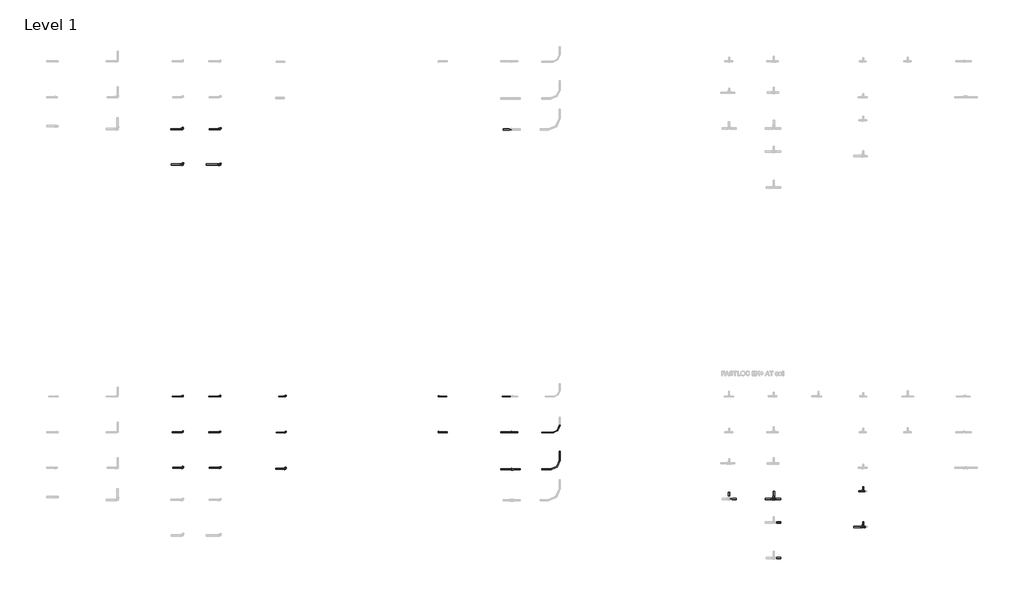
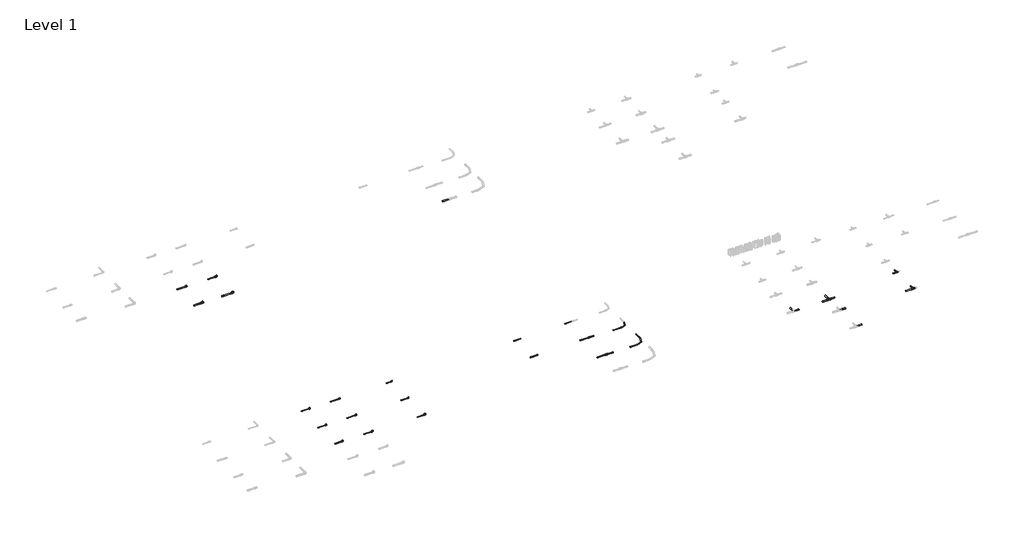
# One storey, part 5 of 16: 35 pipe segments, 24 pipe fittings.
"""IFC4 building model written with IfcOpenShell, lengths in millimetres."""

from ifc_helpers import new_model, si_unit, point, frame, frame_2d, origin, place, context, project, spatial, circle_curve, trimmed, segment, composite_curve, outline, extrude, transform, mapped, element, save
from components import pipe_fitting_554da5ac, pipe_fitting_11a16acd, pipe_fitting_c58dc389, pipe_fitting_749d9a03, pipe_fitting_037c3912, pipe_fitting_39b045f9, pipe_fitting_bf5c4f06, pipe_fitting_d71fb650, pipe_fitting_546e3b0f, pipe_fitting_1a29b1f6, pipe_fitting_21c97d0d, pipe_fitting_bc9683d6, pipe_fitting_d5e3d02e, pipe_fitting_bff7a8e0, pipe_fitting_48a19379, pipe_fitting_503ca6ef, pipe_fitting_0c2dddc6, pipe_fitting_6c2c1df7, pipe_fitting_8eda894a, pipe_fitting_ad4eddfe, pipe_fitting_73c1a440

model = new_model("IFC4")

# Units and contexts
model_context = context("Model", 3, world=origin())
ifc_project = project(units=[si_unit("LENGTHUNIT", "METRE", prefix="MILLI")], contexts=[model_context])

# Site, building, storey
site = spatial("IfcSite", under=ifc_project)
building = spatial("IfcBuilding", under=site)
storey = spatial("IfcBuildingStorey", under=building, Name="Level 1", Elevation=0.0)

# Pipe fittings
placement = place(None, origin())
pipe_fitting_shape = pipe_fitting_554da5ac(model_context)
element("IfcPipeFitting", 1, ObjectType="FASTLOC_Elbow with male thread EX+ : FSL A internal AT", at=placement, inside=storey, context=model_context, shape_type="MappedRepresentation", body=[
    mapped(pipe_fitting_shape, transform((16735.3824015, -7087.6479967, 0.0), x_axis=(1.0, 0.0, 0.0), y_axis=(0.0, 1.0, 0.0), z_axis=(0.0, 0.0, 1.0))),
])
pipe_fitting_2_shape = pipe_fitting_11a16acd(model_context)
element("IfcPipeFitting", 2, ObjectType="FASTLOC_Elbow with female thread EX+ : FSL A internal AT", at=placement, inside=storey, context=model_context, shape_type="MappedRepresentation", body=[
    mapped(pipe_fitting_2_shape, transform((17573.8113057, -6287.6479967, 0.0), x_axis=(1.0, 0.0, 0.0), y_axis=(0.0, 1.0, 0.0), z_axis=(0.0, 0.0, 1.0))),
])
element("IfcPipeFitting", 3, ObjectType="FASTLOC_Elbow with female thread EX+ : FSL A internal AT", at=placement, inside=storey, context=model_context, shape_type="MappedRepresentation", body=[
    mapped(pipe_fitting_2_shape, transform((19035.3824015, -6287.6479967, 0.0), x_axis=(1.0, 0.0, 0.0), y_axis=(0.0, 1.0, 0.0), z_axis=(0.0, 0.0, 1.0))),
])
element("IfcPipeFitting", 4, ObjectType="FASTLOC_Elbow with female thread EX+ : FSL A internal AT", at=placement, inside=storey, context=model_context, shape_type="MappedRepresentation", body=[
    mapped(pipe_fitting_2_shape, transform((19035.3824015, -7095.6479967, 0.0), x_axis=(1.0, 0.0, 0.0), y_axis=(0.0, 1.0, 0.0), z_axis=(0.0, 0.0, 1.0))),
])
pipe_fitting_3_shape = pipe_fitting_c58dc389(model_context)
element("IfcPipeFitting", 5, ObjectType="FASTLOC_Blanking plug EX+ : FSL Bp EX+ AT", at=placement, inside=storey, context=model_context, shape_type="MappedRepresentation", body=[
    mapped(pipe_fitting_3_shape, transform((22451.3241081, -6287.6479967, 0.0), x_axis=(1.0, 0.0, 0.0), y_axis=(0.0, 1.0, 0.0), z_axis=(0.0, 0.0, 1.0))),
])
pipe_fitting_4_shape = pipe_fitting_749d9a03(model_context)
element("IfcPipeFitting", 6, ObjectType="RAUTITAN_Sleeve PX : RTI S PX", at=placement, inside=storey, context=model_context, shape_type="MappedRepresentation", body=[
    mapped(pipe_fitting_4_shape, transform((24105.6241081, -7087.6479967, 13.7), x_axis=(1.0, 0.0, 0.0), y_axis=(0.0, 1.0, 0.0), z_axis=(0.0, 0.0, 1.0))),
])
pipe_fitting_5_shape = pipe_fitting_037c3912(model_context)
element("IfcPipeFitting", 7, ObjectType="RAUTITAN_Sleeve PX : RTI S PX", at=placement, inside=storey, context=model_context, shape_type="MappedRepresentation", body=[
    mapped(pipe_fitting_5_shape, transform((24107.9241081, -7918.854246, 13.7), x_axis=(1.0, 0.0, 0.0), y_axis=(0.0, 1.0, 0.0), z_axis=(0.0, 0.0, 1.0))),
])
pipe_fitting_6_shape = pipe_fitting_39b045f9(model_context)
element("IfcPipeFitting", 8, ObjectType="FASTLOC_ML_bend : FSL ML AT", at=placement, inside=storey, context=model_context, shape_type="MappedRepresentation", body=[
    mapped(pipe_fitting_6_shape, transform((25170.2040344, -7095.6479967, 0.0), x_axis=(1.0, 0.0, 0.0), y_axis=(0.0, 1.0, 0.0), z_axis=(0.0, 0.0, 1.0))),
])
pipe_fitting_7_shape = pipe_fitting_bf5c4f06(model_context)
element("IfcPipeFitting", 9, ObjectType="FASTLOC_ML_bend : FSL ML AT", at=placement, inside=storey, context=model_context, shape_type="MappedRepresentation", body=[
    mapped(pipe_fitting_7_shape, transform((25170.2040344, -7918.854246, 0.0), x_axis=(1.0, 0.0, 0.0), y_axis=(0.0, 1.0, 0.0), z_axis=(0.0, 0.0, 1.0))),
])
pipe_fitting_8_shape = pipe_fitting_d71fb650(model_context)
element("IfcPipeFitting", 10, ObjectType="FASTLOC_Elbow with male thread EX+ : FSL A internal DE", at=placement, inside=storey, context=model_context, shape_type="MappedRepresentation", body=[
    mapped(pipe_fitting_8_shape, transform((16735.3824015, -304.9640428, 0.0), x_axis=(1.0, 0.0, 0.0), y_axis=(0.0, 1.0, 0.0), z_axis=(0.0, 0.0, 1.0))),
])
pipe_fitting_9_shape = pipe_fitting_546e3b0f(model_context)
element("IfcPipeFitting", 11, ObjectType="FASTLOC_Elbow with male thread EX+ : FSL A internal DE", at=placement, inside=storey, context=model_context, shape_type="MappedRepresentation", body=[
    mapped(pipe_fitting_9_shape, transform((16735.3824015, -1099.407392, 0.0), x_axis=(1.0, 0.0, 0.0), y_axis=(0.0, 1.0, 0.0), z_axis=(0.0, 0.0, 1.0))),
])
pipe_fitting_10_shape = pipe_fitting_1a29b1f6(model_context)
element("IfcPipeFitting", 12, ObjectType="FASTLOC_Elbow with male thread EX+ : FSL A internal AT", at=placement, inside=storey, context=model_context, shape_type="MappedRepresentation", body=[
    mapped(pipe_fitting_10_shape, transform((16735.3824015, -6287.6479967, 0.0), x_axis=(1.0, 0.0, 0.0), y_axis=(0.0, 1.0, 0.0), z_axis=(0.0, 0.0, 1.0))),
])
pipe_fitting_11_shape = pipe_fitting_21c97d0d(model_context)
element("IfcPipeFitting", 13, ObjectType="FASTLOC_Elbow with male thread EX+ : FSL A internal AT", at=placement, inside=storey, context=model_context, shape_type="MappedRepresentation", body=[
    mapped(pipe_fitting_11_shape, transform((16735.3824015, -7887.6479967, 0.0), x_axis=(1.0, 0.0, 0.0), y_axis=(0.0, 1.0, 0.0), z_axis=(0.0, 0.0, 1.0))),
])
pipe_fitting_12_shape = pipe_fitting_bc9683d6(model_context)
element("IfcPipeFitting", 14, ObjectType="FASTLOC_T-piece_EX+ : FSL T-Piece EX+ AT", at=placement, inside=storey, context=model_context, shape_type="MappedRepresentation", body=[
    mapped(pipe_fitting_12_shape, transform((29962.9146925, -8587.6479967, 0.0), x_axis=(1.0, 0.0, 0.0), y_axis=(0.0, 1.0, 0.0), z_axis=(0.0, 0.0, 1.0))),
])
pipe_fitting_13_shape = pipe_fitting_d5e3d02e(model_context)
element("IfcPipeFitting", 15, ObjectType="FASTLOC_T-piece_EX+ : FSL T-Piece EX+ AT", at=placement, inside=storey, context=model_context, shape_type="MappedRepresentation", body=[
    mapped(pipe_fitting_13_shape, transform((31962.9146925, -9207.6479967, 0.0), x_axis=(1.0, 0.0, 0.0), y_axis=(0.0, 1.0, 0.0), z_axis=(0.0, 0.0, 1.0))),
])
pipe_fitting_14_shape = pipe_fitting_bff7a8e0(model_context)
element("IfcPipeFitting", 16, ObjectType="FASTLOC_T-piece_EX+ : FSL T-Piece EX+ AT", at=placement, inside=storey, context=model_context, shape_type="MappedRepresentation", body=[
    mapped(pipe_fitting_14_shape, transform((31962.9146925, -8407.6479967, 0.0), x_axis=(1.0, 0.0, 0.0), y_axis=(0.0, 1.0, 0.0), z_axis=(0.0, 0.0, 1.0))),
])
pipe_fitting_15_shape = pipe_fitting_48a19379(model_context)
element("IfcPipeFitting", 17, ObjectType="FASTLOC_Adapter coupling EX+ : FSL TC EX+ AT", at=placement, inside=storey, context=model_context, shape_type="MappedRepresentation", body=[
    mapped(pipe_fitting_15_shape, transform((24091.3241081, -7087.6479967, 13.7), x_axis=(1.0, 0.0, 0.0), y_axis=(0.0, 1.0, 0.0), z_axis=(0.0, 0.0, 1.0))),
])
pipe_fitting_16_shape = pipe_fitting_503ca6ef(model_context)
element("IfcPipeFitting", 18, ObjectType="FASTLOC_Adapter coupling EX+ : FSL TC EX+ AT", at=placement, inside=storey, context=model_context, shape_type="MappedRepresentation", body=[
    mapped(pipe_fitting_16_shape, transform((24091.3241081, -7918.854246, 13.7), x_axis=(1.0, 0.0, 0.0), y_axis=(0.0, 1.0, 0.0), z_axis=(0.0, 0.0, 1.0))),
])
pipe_fitting_17_shape = pipe_fitting_0c2dddc6(model_context)
element("IfcPipeFitting", 19, ObjectType="FASTLOC_Blanking plug EX+ : FSL Bp EX+ AT", at=placement, inside=storey, context=model_context, shape_type="MappedRepresentation", body=[
    mapped(pipe_fitting_17_shape, transform((22451.3241081, -7087.6479967, 0.0), x_axis=(1.0, 0.0, 0.0), y_axis=(0.0, 1.0, 0.0), z_axis=(0.0, 0.0, 1.0))),
])
pipe_fitting_18_shape = pipe_fitting_6c2c1df7(model_context)
element("IfcPipeFitting", 20, ObjectType="FASTLOC_Elbow with female thread EX+ : FSL A internal DE", at=placement, inside=storey, context=model_context, shape_type="MappedRepresentation", body=[
    mapped(pipe_fitting_18_shape, transform((17573.8113057, -304.9640428, 0.0), x_axis=(1.0, 0.0, 0.0), y_axis=(0.0, 1.0, 0.0), z_axis=(0.0, 0.0, 1.0))),
])
pipe_fitting_19_shape = pipe_fitting_8eda894a(model_context)
element("IfcPipeFitting", 21, ObjectType="FASTLOC_Elbow with female thread EX+ : FSL A internal DE", at=placement, inside=storey, context=model_context, shape_type="MappedRepresentation", body=[
    mapped(pipe_fitting_19_shape, transform((17573.8113057, -1099.407392, 0.0), x_axis=(1.0, 0.0, 0.0), y_axis=(0.0, 1.0, 0.0), z_axis=(0.0, 0.0, 1.0))),
])
pipe_fitting_20_shape = pipe_fitting_ad4eddfe(model_context)
element("IfcPipeFitting", 22, ObjectType="FASTLOC_Elbow with female thread EX+ : FSL A internal AT", at=placement, inside=storey, context=model_context, shape_type="MappedRepresentation", body=[
    mapped(pipe_fitting_20_shape, transform((17573.8113057, -7087.6479967, 0.0), x_axis=(1.0, 0.0, 0.0), y_axis=(0.0, 1.0, 0.0), z_axis=(0.0, 0.0, 1.0))),
])
pipe_fitting_21_shape = pipe_fitting_73c1a440(model_context)
element("IfcPipeFitting", 23, ObjectType="FASTLOC_Elbow with female thread EX+ : FSL A internal AT", at=placement, inside=storey, context=model_context, shape_type="MappedRepresentation", body=[
    mapped(pipe_fitting_21_shape, transform((17573.8113057, -7887.6479967, 0.0), x_axis=(1.0, 0.0, 0.0), y_axis=(0.0, 1.0, 0.0), z_axis=(0.0, 0.0, 1.0))),
])
element("IfcPipeFitting", 24, ObjectType="FASTLOC_Elbow with female thread EX+ : FSL A internal AT", at=placement, inside=storey, context=model_context, shape_type="MappedRepresentation", body=[
    mapped(pipe_fitting_18_shape, transform((19035.3824015, -7906.354246, 0.0), x_axis=(1.0, 0.0, 0.0), y_axis=(0.0, 1.0, 0.0), z_axis=(0.0, 0.0, 1.0))),
])

# Pipe segments
element("IfcPipeSegment", 25, ObjectType="FASTLOC EX+ ML DE bar", at=placement, inside=storey, context=model_context, shape_type="SweptSolid", body=[
    extrude(outline(composite_curve([segment(trimmed(circle_curve(frame_2d((-311.8142398, 13.7)), 16.0), [point((-295.8142398, 13.7))], [point((-311.8142398, -2.3))], False, "CARTESIAN"), True, "CONTINUOUS"), segment(trimmed(circle_curve(frame_2d((-311.8142398, 13.7)), 16.0), [point((-311.8142398, -2.3))], [point((-327.8142398, 13.7))], False, "CARTESIAN"), True, "CONTINUOUS"), segment(trimmed(circle_curve(frame_2d((-311.8142398, 13.7)), 16.0), [point((-327.8142398, 13.7))], [point((-311.8142398, 29.7))], False, "CARTESIAN"), True, "CONTINUOUS"), segment(trimmed(circle_curve(frame_2d((-311.8142398, 13.7)), 16.0), [point((-311.8142398, 29.7))], [point((-295.8142398, 13.7))], False, "CARTESIAN"), True, "CONTINUOUS")], self_intersect=False)), frame((23905.8241081, 0.0, 0.0), z_axis=(1.0, 0.0, 0.0), x_axis=(0.0, 1.0, 0.0)), (0.0, 0.0, 1.0), 180.0),
])
element("IfcPipeSegment", 26, ObjectType="FASTLOC EX+ ML DE bar", at=placement, inside=storey, context=model_context, shape_type="SweptSolid", body=[
    extrude(outline(composite_curve([segment(trimmed(circle_curve(frame_2d((-304.9640428, 0.0)), 12.5), [point((-292.4640428, 0.0))], [point((-304.9640428, -12.5))], False, "CARTESIAN"), True, "CONTINUOUS"), segment(trimmed(circle_curve(frame_2d((-304.9640428, 0.0)), 12.5), [point((-304.9640428, -12.5))], [point((-317.4640428, 0.0))], False, "CARTESIAN"), True, "CONTINUOUS"), segment(trimmed(circle_curve(frame_2d((-304.9640428, 0.0)), 12.5), [point((-317.4640428, 0.0))], [point((-304.9640428, 12.5))], False, "CARTESIAN"), True, "CONTINUOUS"), segment(trimmed(circle_curve(frame_2d((-304.9640428, 0.0)), 12.5), [point((-304.9640428, 12.5))], [point((-292.4640428, 0.0))], False, "CARTESIAN"), True, "CONTINUOUS")], self_intersect=False)), frame((17326.8113057, 0.0, 0.0), z_axis=(1.0, 0.0, 0.0), x_axis=(0.0, 1.0, 0.0)), (0.0, 0.0, 1.0), 220.0),
])
element("IfcPipeSegment", 27, ObjectType="FASTLOC EX+ ML DE bar", at=placement, inside=storey, context=model_context, shape_type="SweptSolid", body=[
    extrude(outline(composite_curve([segment(trimmed(circle_curve(frame_2d((-304.9640428, 0.0)), 12.5), [point((-292.4640428, 0.0))], [point((-304.9640428, -12.5))], False, "CARTESIAN"), True, "CONTINUOUS"), segment(trimmed(circle_curve(frame_2d((-304.9640428, 0.0)), 12.5), [point((-304.9640428, -12.5))], [point((-317.4640428, 0.0))], False, "CARTESIAN"), True, "CONTINUOUS"), segment(trimmed(circle_curve(frame_2d((-304.9640428, 0.0)), 12.5), [point((-317.4640428, 0.0))], [point((-304.9640428, 12.5))], False, "CARTESIAN"), True, "CONTINUOUS"), segment(trimmed(circle_curve(frame_2d((-304.9640428, 0.0)), 12.5), [point((-304.9640428, 12.5))], [point((-292.4640428, 0.0))], False, "CARTESIAN"), True, "CONTINUOUS")], self_intersect=False)), frame((16461.1824015, 0.0, 0.0), z_axis=(1.0, 0.0, 0.0), x_axis=(0.0, 1.0, 0.0)), (0.0, 0.0, 1.0), 250.0),
])
element("IfcPipeSegment", 28, ObjectType="FASTLOC EX+ ML DE bar", at=placement, inside=storey, context=model_context, shape_type="SweptSolid", body=[
    extrude(outline(composite_curve([segment(trimmed(circle_curve(frame_2d((-1099.407392, 0.0)), 16.0), [point((-1083.407392, 0.0))], [point((-1099.407392, -16.0))], False, "CARTESIAN"), True, "CONTINUOUS"), segment(trimmed(circle_curve(frame_2d((-1099.407392, 0.0)), 16.0), [point((-1099.407392, -16.0))], [point((-1115.407392, 0.0))], False, "CARTESIAN"), True, "CONTINUOUS"), segment(trimmed(circle_curve(frame_2d((-1099.407392, 0.0)), 16.0), [point((-1115.407392, 0.0))], [point((-1099.407392, 16.0))], False, "CARTESIAN"), True, "CONTINUOUS"), segment(trimmed(circle_curve(frame_2d((-1099.407392, 0.0)), 16.0), [point((-1099.407392, 16.0))], [point((-1083.407392, 0.0))], False, "CARTESIAN"), True, "CONTINUOUS")], self_intersect=False)), frame((16475.6824015, 0.0, 0.0), z_axis=(1.0, 0.0, 0.0), x_axis=(0.0, 1.0, 0.0)), (0.0, 0.0, 1.0), 230.0),
])
element("IfcPipeSegment", 29, ObjectType="FASTLOC EX+ ML DE bar", at=placement, inside=storey, context=model_context, shape_type="SweptSolid", body=[
    extrude(outline(composite_curve([segment(trimmed(circle_curve(frame_2d((-1099.407392, 0.0)), 16.0), [point((-1083.407392, 0.0))], [point((-1099.407392, -16.0))], False, "CARTESIAN"), True, "CONTINUOUS"), segment(trimmed(circle_curve(frame_2d((-1099.407392, 0.0)), 16.0), [point((-1099.407392, -16.0))], [point((-1115.407392, 0.0))], False, "CARTESIAN"), True, "CONTINUOUS"), segment(trimmed(circle_curve(frame_2d((-1099.407392, 0.0)), 16.0), [point((-1115.407392, 0.0))], [point((-1099.407392, 16.0))], False, "CARTESIAN"), True, "CONTINUOUS"), segment(trimmed(circle_curve(frame_2d((-1099.407392, 0.0)), 16.0), [point((-1099.407392, 16.0))], [point((-1083.407392, 0.0))], False, "CARTESIAN"), True, "CONTINUOUS")], self_intersect=False)), frame((17261.8113057, 0.0, 0.0), z_axis=(1.0, 0.0, 0.0), x_axis=(0.0, 1.0, 0.0)), (0.0, 0.0, 1.0), 280.0),
])
element("IfcPipeSegment", 30, ObjectType="FASTLOC EX+ ML AT bar", at=placement, inside=storey, context=model_context, shape_type="SweptSolid", body=[
    extrude(outline(composite_curve([segment(trimmed(circle_curve(frame_2d((-7095.6479967, 0.0)), 10.0), [point((-7085.6479967, 0.0))], [point((-7095.6479967, -10.0))], False, "CARTESIAN"), True, "CONTINUOUS"), segment(trimmed(circle_curve(frame_2d((-7095.6479967, 0.0)), 10.0), [point((-7095.6479967, -10.0))], [point((-7105.6479967, 0.0))], False, "CARTESIAN"), True, "CONTINUOUS"), segment(trimmed(circle_curve(frame_2d((-7095.6479967, 0.0)), 10.0), [point((-7105.6479967, 0.0))], [point((-7095.6479967, 10.0))], False, "CARTESIAN"), True, "CONTINUOUS"), segment(trimmed(circle_curve(frame_2d((-7095.6479967, 0.0)), 10.0), [point((-7095.6479967, 10.0))], [point((-7085.6479967, 0.0))], False, "CARTESIAN"), True, "CONTINUOUS")], self_intersect=False)), frame((24770.2040344, 0.0, 0.0), z_axis=(1.0, 0.0, 0.0), x_axis=(0.0, 1.0, 0.0)), (0.0, 0.0, 1.0), 240.0),
])
element("IfcPipeSegment", 31, ObjectType="FASTLOC EX+ ML AT bar", at=placement, inside=storey, context=model_context, shape_type="SweptSolid", body=[
    extrude(outline(composite_curve([segment(trimmed(circle_curve(frame_2d((0.0, 25170.2040344)), 12.5), [point((0.0, 25182.7040344))], [point((12.5, 25170.2040344))], False, "CARTESIAN"), True, "CONTINUOUS"), segment(trimmed(circle_curve(frame_2d((0.0, 25170.2040344)), 12.5), [point((12.5, 25170.2040344))], [point((0.0, 25157.7040344))], False, "CARTESIAN"), True, "CONTINUOUS"), segment(trimmed(circle_curve(frame_2d((0.0, 25170.2040344)), 12.5), [point((0.0, 25157.7040344))], [point((-12.5, 25170.2040344))], False, "CARTESIAN"), True, "CONTINUOUS"), segment(trimmed(circle_curve(frame_2d((0.0, 25170.2040344)), 12.5), [point((-12.5, 25170.2040344))], [point((0.0, 25182.7040344))], False, "CARTESIAN"), True, "CONTINUOUS")], self_intersect=False)), frame((0.0, -7718.854246, 0.0), z_axis=(0.0, 1.0, 0.0), x_axis=(0.0, 0.0, 1.0)), (0.0, 0.0, 1.0), 200.0),
])
element("IfcPipeSegment", 32, ObjectType="FASTLOC EX+ ML AT bar", at=placement, inside=storey, context=model_context, shape_type="SweptSolid", body=[
    extrude(outline(composite_curve([segment(trimmed(circle_curve(frame_2d((-7918.854246, 0.0)), 12.5), [point((-7906.354246, 0.0))], [point((-7918.854246, -12.5))], False, "CARTESIAN"), True, "CONTINUOUS"), segment(trimmed(circle_curve(frame_2d((-7918.854246, 0.0)), 12.5), [point((-7918.854246, -12.5))], [point((-7931.354246, 0.0))], False, "CARTESIAN"), True, "CONTINUOUS"), segment(trimmed(circle_curve(frame_2d((-7918.854246, 0.0)), 12.5), [point((-7931.354246, 0.0))], [point((-7918.854246, 12.5))], False, "CARTESIAN"), True, "CONTINUOUS"), segment(trimmed(circle_curve(frame_2d((-7918.854246, 0.0)), 12.5), [point((-7918.854246, 12.5))], [point((-7906.354246, 0.0))], False, "CARTESIAN"), True, "CONTINUOUS")], self_intersect=False)), frame((24770.2040344, 0.0, 0.0), z_axis=(1.0, 0.0, 0.0), x_axis=(0.0, 1.0, 0.0)), (0.0, 0.0, 1.0), 200.0),
])
element("IfcPipeSegment", 33, ObjectType="FASTLOC EX+ ML AT bar", at=placement, inside=storey, context=model_context, shape_type="SweptSolid", body=[
    extrude(outline(composite_curve([segment(trimmed(circle_curve(frame_2d((-7918.854246, 13.7)), 12.5), [point((-7906.354246, 13.7))], [point((-7918.854246, 1.2))], False, "CARTESIAN"), True, "CONTINUOUS"), segment(trimmed(circle_curve(frame_2d((-7918.854246, 13.7)), 12.5), [point((-7918.854246, 1.2))], [point((-7931.354246, 13.7))], False, "CARTESIAN"), True, "CONTINUOUS"), segment(trimmed(circle_curve(frame_2d((-7918.854246, 13.7)), 12.5), [point((-7931.354246, 13.7))], [point((-7918.854246, 26.2))], False, "CARTESIAN"), True, "CONTINUOUS"), segment(trimmed(circle_curve(frame_2d((-7918.854246, 13.7)), 12.5), [point((-7918.854246, 26.2))], [point((-7906.354246, 13.7))], False, "CARTESIAN"), True, "CONTINUOUS")], self_intersect=False)), frame((23846.7241081, 0.0, 0.0), z_axis=(1.0, 0.0, 0.0), x_axis=(0.0, 1.0, 0.0)), (0.0, 0.0, 1.0), 240.0),
])
element("IfcPipeSegment", 34, ObjectType="FASTLOC EX+ ML AT bar", at=placement, inside=storey, context=model_context, shape_type="SweptSolid", body=[
    extrude(outline(composite_curve([segment(trimmed(circle_curve(frame_2d((-7918.854246, 13.7)), 12.5), [point((-7931.354246, 13.7))], [point((-7918.854246, 26.2))], False, "CARTESIAN"), True, "CONTINUOUS"), segment(trimmed(circle_curve(frame_2d((-7918.854246, 13.7)), 12.5), [point((-7918.854246, 26.2))], [point((-7906.354246, 13.7))], False, "CARTESIAN"), True, "CONTINUOUS"), segment(trimmed(circle_curve(frame_2d((-7918.854246, 13.7)), 12.5), [point((-7906.354246, 13.7))], [point((-7918.854246, 1.2))], False, "CARTESIAN"), True, "CONTINUOUS"), segment(trimmed(circle_curve(frame_2d((-7918.854246, 13.7)), 12.5), [point((-7918.854246, 1.2))], [point((-7931.354246, 13.7))], False, "CARTESIAN"), True, "CONTINUOUS")], self_intersect=False)), frame((24107.9241081, 0.0, 0.0), z_axis=(1.0, 0.0, 0.0), x_axis=(0.0, 1.0, 0.0)), (0.0, 0.0, 1.0), 182.7),
])
element("IfcPipeSegment", 35, ObjectType="FASTLOC EX+ ML AT bar", at=placement, inside=storey, context=model_context, shape_type="SweptSolid", body=[
    extrude(outline(composite_curve([segment(trimmed(circle_curve(frame_2d((-7087.6479967, 13.7)), 10.0), [point((-7097.6479967, 13.7))], [point((-7087.6479967, 23.7))], False, "CARTESIAN"), True, "CONTINUOUS"), segment(trimmed(circle_curve(frame_2d((-7087.6479967, 13.7)), 10.0), [point((-7087.6479967, 23.7))], [point((-7077.6479967, 13.7))], False, "CARTESIAN"), True, "CONTINUOUS"), segment(trimmed(circle_curve(frame_2d((-7087.6479967, 13.7)), 10.0), [point((-7077.6479967, 13.7))], [point((-7087.6479967, 3.7))], False, "CARTESIAN"), True, "CONTINUOUS"), segment(trimmed(circle_curve(frame_2d((-7087.6479967, 13.7)), 10.0), [point((-7087.6479967, 3.7))], [point((-7097.6479967, 13.7))], False, "CARTESIAN"), True, "CONTINUOUS")], self_intersect=False)), frame((24105.6241081, 0.0, 0.0), z_axis=(1.0, 0.0, 0.0), x_axis=(0.0, 1.0, 0.0)), (0.0, 0.0, 1.0), 120.0),
])
element("IfcPipeSegment", 36, ObjectType="FASTLOC EX+ ML AT bar", at=placement, inside=storey, context=model_context, shape_type="SweptSolid", body=[
    extrude(outline(composite_curve([segment(trimmed(circle_curve(frame_2d((-7087.6479967, 13.7)), 10.0), [point((-7077.6479967, 13.7))], [point((-7087.6479967, 3.7))], False, "CARTESIAN"), True, "CONTINUOUS"), segment(trimmed(circle_curve(frame_2d((-7087.6479967, 13.7)), 10.0), [point((-7087.6479967, 3.7))], [point((-7097.6479967, 13.7))], False, "CARTESIAN"), True, "CONTINUOUS"), segment(trimmed(circle_curve(frame_2d((-7087.6479967, 13.7)), 10.0), [point((-7097.6479967, 13.7))], [point((-7087.6479967, 23.7))], False, "CARTESIAN"), True, "CONTINUOUS"), segment(trimmed(circle_curve(frame_2d((-7087.6479967, 13.7)), 10.0), [point((-7087.6479967, 23.7))], [point((-7077.6479967, 13.7))], False, "CARTESIAN"), True, "CONTINUOUS")], self_intersect=False)), frame((23846.7241081, 0.0, 0.0), z_axis=(1.0, 0.0, 0.0), x_axis=(0.0, 1.0, 0.0)), (0.0, 0.0, 1.0), 240.3),
])
element("IfcPipeSegment", 37, ObjectType="FASTLOC EX+ ML AT bar", at=placement, inside=storey, context=model_context, shape_type="SweptSolid", body=[
    extrude(outline(composite_curve([segment(trimmed(circle_curve(frame_2d((-6287.6479967, 13.7)), 8.0), [point((-6279.6479967, 13.7))], [point((-6287.6479967, 5.7))], False, "CARTESIAN"), True, "CONTINUOUS"), segment(trimmed(circle_curve(frame_2d((-6287.6479967, 13.7)), 8.0), [point((-6287.6479967, 5.7))], [point((-6295.6479967, 13.7))], False, "CARTESIAN"), True, "CONTINUOUS"), segment(trimmed(circle_curve(frame_2d((-6287.6479967, 13.7)), 8.0), [point((-6295.6479967, 13.7))], [point((-6287.6479967, 21.7))], False, "CARTESIAN"), True, "CONTINUOUS"), segment(trimmed(circle_curve(frame_2d((-6287.6479967, 13.7)), 8.0), [point((-6287.6479967, 21.7))], [point((-6279.6479967, 13.7))], False, "CARTESIAN"), True, "CONTINUOUS")], self_intersect=False)), frame((23887.0241081, 0.0, 0.0), z_axis=(1.0, 0.0, 0.0), x_axis=(0.0, 1.0, 0.0)), (0.0, 0.0, 1.0), 200.0),
])
element("IfcPipeSegment", 38, ObjectType="FASTLOC EX+ ML AT bar", at=placement, inside=storey, context=model_context, shape_type="SweptSolid", body=[
    extrude(outline(composite_curve([segment(trimmed(circle_curve(frame_2d((-6287.6479967, 0.0)), 8.0), [point((-6295.6479967, 0.0))], [point((-6287.6479967, 8.0))], False, "CARTESIAN"), True, "CONTINUOUS"), segment(trimmed(circle_curve(frame_2d((-6287.6479967, 0.0)), 8.0), [point((-6287.6479967, 8.0))], [point((-6279.6479967, 0.0))], False, "CARTESIAN"), True, "CONTINUOUS"), segment(trimmed(circle_curve(frame_2d((-6287.6479967, 0.0)), 8.0), [point((-6279.6479967, 0.0))], [point((-6287.6479967, -8.0))], False, "CARTESIAN"), True, "CONTINUOUS"), segment(trimmed(circle_curve(frame_2d((-6287.6479967, 0.0)), 8.0), [point((-6287.6479967, -8.0))], [point((-6295.6479967, 0.0))], False, "CARTESIAN"), True, "CONTINUOUS")], self_intersect=False)), frame((22458.0241081, 0.0, 0.0), z_axis=(1.0, 0.0, 0.0), x_axis=(0.0, 1.0, 0.0)), (0.0, 0.0, 1.0), 180.0),
])
element("IfcPipeSegment", 39, ObjectType="FASTLOC EX+ ML AT bar", at=placement, inside=storey, context=model_context, shape_type="SweptSolid", body=[
    extrude(outline(composite_curve([segment(trimmed(circle_curve(frame_2d((-7087.6479967, 0.0)), 10.0), [point((-7097.6479967, 0.0))], [point((-7087.6479967, 10.0))], False, "CARTESIAN"), True, "CONTINUOUS"), segment(trimmed(circle_curve(frame_2d((-7087.6479967, 0.0)), 10.0), [point((-7087.6479967, 10.0))], [point((-7077.6479967, 0.0))], False, "CARTESIAN"), True, "CONTINUOUS"), segment(trimmed(circle_curve(frame_2d((-7087.6479967, 0.0)), 10.0), [point((-7077.6479967, 0.0))], [point((-7087.6479967, -10.0))], False, "CARTESIAN"), True, "CONTINUOUS"), segment(trimmed(circle_curve(frame_2d((-7087.6479967, 0.0)), 10.0), [point((-7087.6479967, -10.0))], [point((-7097.6479967, 0.0))], False, "CARTESIAN"), True, "CONTINUOUS")], self_intersect=False)), frame((22458.0241081, 0.0, 0.0), z_axis=(1.0, 0.0, 0.0), x_axis=(0.0, 1.0, 0.0)), (0.0, 0.0, 1.0), 200.0),
])
element("IfcPipeSegment", 40, ObjectType="FASTLOC EX+ ML AT bar", at=placement, inside=storey, context=model_context, shape_type="SweptSolid", body=[
    extrude(outline(composite_curve([segment(trimmed(circle_curve(frame_2d((-6287.6479967, 0.0)), 8.0), [point((-6279.6479967, 0.0))], [point((-6287.6479967, -8.0))], False, "CARTESIAN"), True, "CONTINUOUS"), segment(trimmed(circle_curve(frame_2d((-6287.6479967, 0.0)), 8.0), [point((-6287.6479967, -8.0))], [point((-6295.6479967, 0.0))], False, "CARTESIAN"), True, "CONTINUOUS"), segment(trimmed(circle_curve(frame_2d((-6287.6479967, 0.0)), 8.0), [point((-6295.6479967, 0.0))], [point((-6287.6479967, 8.0))], False, "CARTESIAN"), True, "CONTINUOUS"), segment(trimmed(circle_curve(frame_2d((-6287.6479967, 0.0)), 8.0), [point((-6287.6479967, 8.0))], [point((-6279.6479967, 0.0))], False, "CARTESIAN"), True, "CONTINUOUS")], self_intersect=False)), frame((18882.8824015, 0.0, 0.0), z_axis=(1.0, 0.0, 0.0), x_axis=(0.0, 1.0, 0.0)), (0.0, 0.0, 1.0), 130.2),
])
element("IfcPipeSegment", 41, ObjectType="FASTLOC EX+ ML AT bar", at=placement, inside=storey, context=model_context, shape_type="SweptSolid", body=[
    extrude(outline(composite_curve([segment(trimmed(circle_curve(frame_2d((-7095.6479967, 0.0)), 8.0), [point((-7087.6479967, 0.0))], [point((-7095.6479967, -8.0))], False, "CARTESIAN"), True, "CONTINUOUS"), segment(trimmed(circle_curve(frame_2d((-7095.6479967, 0.0)), 8.0), [point((-7095.6479967, -8.0))], [point((-7103.6479967, 0.0))], False, "CARTESIAN"), True, "CONTINUOUS"), segment(trimmed(circle_curve(frame_2d((-7095.6479967, 0.0)), 8.0), [point((-7103.6479967, 0.0))], [point((-7095.6479967, 8.0))], False, "CARTESIAN"), True, "CONTINUOUS"), segment(trimmed(circle_curve(frame_2d((-7095.6479967, 0.0)), 8.0), [point((-7095.6479967, 8.0))], [point((-7087.6479967, 0.0))], False, "CARTESIAN"), True, "CONTINUOUS")], self_intersect=False)), frame((18822.8824015, 0.0, 0.0), z_axis=(1.0, 0.0, 0.0), x_axis=(0.0, 1.0, 0.0)), (0.0, 0.0, 1.0), 190.2),
])
element("IfcPipeSegment", 42, ObjectType="FASTLOC EX+ ML AT bar", at=placement, inside=storey, context=model_context, shape_type="SweptSolid", body=[
    extrude(outline(composite_curve([segment(trimmed(circle_curve(frame_2d((-7906.354246, 0.0)), 12.5), [point((-7893.854246, 0.0))], [point((-7906.354246, -12.5))], False, "CARTESIAN"), True, "CONTINUOUS"), segment(trimmed(circle_curve(frame_2d((-7906.354246, 0.0)), 12.5), [point((-7906.354246, -12.5))], [point((-7918.854246, 0.0))], False, "CARTESIAN"), True, "CONTINUOUS"), segment(trimmed(circle_curve(frame_2d((-7906.354246, 0.0)), 12.5), [point((-7918.854246, 0.0))], [point((-7906.354246, 12.5))], False, "CARTESIAN"), True, "CONTINUOUS"), segment(trimmed(circle_curve(frame_2d((-7906.354246, 0.0)), 12.5), [point((-7906.354246, 12.5))], [point((-7893.854246, 0.0))], False, "CARTESIAN"), True, "CONTINUOUS")], self_intersect=False)), frame((18808.4824015, 0.0, 0.0), z_axis=(1.0, 0.0, 0.0), x_axis=(0.0, 1.0, 0.0)), (0.0, 0.0, 1.0), 199.9),
])
element("IfcPipeSegment", 43, ObjectType="FASTLOC EX+ ML AT bar", at=placement, inside=storey, context=model_context, shape_type="SweptSolid", body=[
    extrude(outline(composite_curve([segment(trimmed(circle_curve(frame_2d((-7887.6479967, 0.0)), 10.0), [point((-7877.6479967, 0.0))], [point((-7887.6479967, -10.0))], False, "CARTESIAN"), True, "CONTINUOUS"), segment(trimmed(circle_curve(frame_2d((-7887.6479967, 0.0)), 10.0), [point((-7887.6479967, -10.0))], [point((-7897.6479967, 0.0))], False, "CARTESIAN"), True, "CONTINUOUS"), segment(trimmed(circle_curve(frame_2d((-7887.6479967, 0.0)), 10.0), [point((-7897.6479967, 0.0))], [point((-7887.6479967, 10.0))], False, "CARTESIAN"), True, "CONTINUOUS"), segment(trimmed(circle_curve(frame_2d((-7887.6479967, 0.0)), 10.0), [point((-7887.6479967, 10.0))], [point((-7877.6479967, 0.0))], False, "CARTESIAN"), True, "CONTINUOUS")], self_intersect=False)), frame((17326.8113057, 0.0, 0.0), z_axis=(1.0, 0.0, 0.0), x_axis=(0.0, 1.0, 0.0)), (0.0, 0.0, 1.0), 221.0),
])
element("IfcPipeSegment", 44, ObjectType="FASTLOC EX+ ML AT bar", at=placement, inside=storey, context=model_context, shape_type="SweptSolid", body=[
    extrude(outline(composite_curve([segment(trimmed(circle_curve(frame_2d((-7087.6479967, 0.0)), 10.0), [point((-7077.6479967, 0.0))], [point((-7087.6479967, -10.0))], False, "CARTESIAN"), True, "CONTINUOUS"), segment(trimmed(circle_curve(frame_2d((-7087.6479967, 0.0)), 10.0), [point((-7087.6479967, -10.0))], [point((-7097.6479967, 0.0))], False, "CARTESIAN"), True, "CONTINUOUS"), segment(trimmed(circle_curve(frame_2d((-7087.6479967, 0.0)), 10.0), [point((-7097.6479967, 0.0))], [point((-7087.6479967, 10.0))], False, "CARTESIAN"), True, "CONTINUOUS"), segment(trimmed(circle_curve(frame_2d((-7087.6479967, 0.0)), 10.0), [point((-7087.6479967, 10.0))], [point((-7077.6479967, 0.0))], False, "CARTESIAN"), True, "CONTINUOUS")], self_intersect=False)), frame((17311.1113057, 0.0, 0.0), z_axis=(1.0, 0.0, 0.0), x_axis=(0.0, 1.0, 0.0)), (0.0, 0.0, 1.0), 240.0),
])
element("IfcPipeSegment", 45, ObjectType="FASTLOC EX+ ML AT bar", at=placement, inside=storey, context=model_context, shape_type="SweptSolid", body=[
    extrude(outline(composite_curve([segment(trimmed(circle_curve(frame_2d((-6287.6479967, 0.0)), 8.0), [point((-6279.6479967, 0.0))], [point((-6287.6479967, -8.0))], False, "CARTESIAN"), True, "CONTINUOUS"), segment(trimmed(circle_curve(frame_2d((-6287.6479967, 0.0)), 8.0), [point((-6287.6479967, -8.0))], [point((-6295.6479967, 0.0))], False, "CARTESIAN"), True, "CONTINUOUS"), segment(trimmed(circle_curve(frame_2d((-6287.6479967, 0.0)), 8.0), [point((-6295.6479967, 0.0))], [point((-6287.6479967, 8.0))], False, "CARTESIAN"), True, "CONTINUOUS"), segment(trimmed(circle_curve(frame_2d((-6287.6479967, 0.0)), 8.0), [point((-6287.6479967, 8.0))], [point((-6279.6479967, 0.0))], False, "CARTESIAN"), True, "CONTINUOUS")], self_intersect=False)), frame((17311.1113057, 0.0, 0.0), z_axis=(1.0, 0.0, 0.0), x_axis=(0.0, 1.0, 0.0)), (0.0, 0.0, 1.0), 240.4),
])
element("IfcPipeSegment", 46, ObjectType="FASTLOC EX+ ML AT bar", at=placement, inside=storey, context=model_context, shape_type="SweptSolid", body=[
    extrude(outline(composite_curve([segment(trimmed(circle_curve(frame_2d((-6287.6479967, 0.0)), 8.0), [point((-6279.6479967, 0.0))], [point((-6287.6479967, -8.0))], False, "CARTESIAN"), True, "CONTINUOUS"), segment(trimmed(circle_curve(frame_2d((-6287.6479967, 0.0)), 8.0), [point((-6287.6479967, -8.0))], [point((-6295.6479967, 0.0))], False, "CARTESIAN"), True, "CONTINUOUS"), segment(trimmed(circle_curve(frame_2d((-6287.6479967, 0.0)), 8.0), [point((-6295.6479967, 0.0))], [point((-6287.6479967, 8.0))], False, "CARTESIAN"), True, "CONTINUOUS"), segment(trimmed(circle_curve(frame_2d((-6287.6479967, 0.0)), 8.0), [point((-6287.6479967, 8.0))], [point((-6279.6479967, 0.0))], False, "CARTESIAN"), True, "CONTINUOUS")], self_intersect=False)), frame((16495.5824015, 0.0, 0.0), z_axis=(1.0, 0.0, 0.0), x_axis=(0.0, 1.0, 0.0)), (0.0, 0.0, 1.0), 220.0),
])
element("IfcPipeSegment", 47, ObjectType="FASTLOC EX+ ML AT bar", at=placement, inside=storey, context=model_context, shape_type="SweptSolid", body=[
    extrude(outline(composite_curve([segment(trimmed(circle_curve(frame_2d((-7087.6479967, 0.0)), 10.0), [point((-7077.6479967, 0.0))], [point((-7087.6479967, -10.0))], False, "CARTESIAN"), True, "CONTINUOUS"), segment(trimmed(circle_curve(frame_2d((-7087.6479967, 0.0)), 10.0), [point((-7087.6479967, -10.0))], [point((-7097.6479967, 0.0))], False, "CARTESIAN"), True, "CONTINUOUS"), segment(trimmed(circle_curve(frame_2d((-7087.6479967, 0.0)), 10.0), [point((-7097.6479967, 0.0))], [point((-7087.6479967, 10.0))], False, "CARTESIAN"), True, "CONTINUOUS"), segment(trimmed(circle_curve(frame_2d((-7087.6479967, 0.0)), 10.0), [point((-7087.6479967, 10.0))], [point((-7077.6479967, 0.0))], False, "CARTESIAN"), True, "CONTINUOUS")], self_intersect=False)), frame((16495.5824015, 0.0, 0.0), z_axis=(1.0, 0.0, 0.0), x_axis=(0.0, 1.0, 0.0)), (0.0, 0.0, 1.0), 219.6),
])
element("IfcPipeSegment", 48, ObjectType="FASTLOC EX+ ML AT bar", at=placement, inside=storey, context=model_context, shape_type="SweptSolid", body=[
    extrude(outline(composite_curve([segment(trimmed(circle_curve(frame_2d((-7887.6479967, 0.0)), 10.0), [point((-7877.6479967, 0.0))], [point((-7887.6479967, -10.0))], False, "CARTESIAN"), True, "CONTINUOUS"), segment(trimmed(circle_curve(frame_2d((-7887.6479967, 0.0)), 10.0), [point((-7887.6479967, -10.0))], [point((-7897.6479967, 0.0))], False, "CARTESIAN"), True, "CONTINUOUS"), segment(trimmed(circle_curve(frame_2d((-7887.6479967, 0.0)), 10.0), [point((-7897.6479967, 0.0))], [point((-7887.6479967, 10.0))], False, "CARTESIAN"), True, "CONTINUOUS"), segment(trimmed(circle_curve(frame_2d((-7887.6479967, 0.0)), 10.0), [point((-7887.6479967, 10.0))], [point((-7877.6479967, 0.0))], False, "CARTESIAN"), True, "CONTINUOUS")], self_intersect=False)), frame((16512.1824015, 0.0, 0.0), z_axis=(1.0, 0.0, 0.0), x_axis=(0.0, 1.0, 0.0)), (0.0, 0.0, 1.0), 200.0),
])
element("IfcPipeSegment", 49, ObjectType="FASTLOC EX+ ML AT coil", at=placement, inside=storey, context=model_context, shape_type="SweptSolid", body=[
    extrude(outline(composite_curve([segment(trimmed(circle_curve(frame_2d((0.0, 31962.9146925)), 10.0), [point((0.0, 31972.9146925))], [point((10.0, 31962.9146925))], False, "CARTESIAN"), True, "CONTINUOUS"), segment(trimmed(circle_curve(frame_2d((0.0, 31962.9146925)), 10.0), [point((10.0, 31962.9146925))], [point((0.0, 31952.9146925))], False, "CARTESIAN"), True, "CONTINUOUS"), segment(trimmed(circle_curve(frame_2d((0.0, 31962.9146925)), 10.0), [point((0.0, 31952.9146925))], [point((-10.0, 31962.9146925))], False, "CARTESIAN"), True, "CONTINUOUS"), segment(trimmed(circle_curve(frame_2d((0.0, 31962.9146925)), 10.0), [point((-10.0, 31962.9146925))], [point((0.0, 31972.9146925))], False, "CARTESIAN"), True, "CONTINUOUS")], self_intersect=False)), frame((0.0, -8378.4479967, 0.0), z_axis=(0.0, 1.0, 0.0), x_axis=(0.0, 0.0, 1.0)), (0.0, 0.0, 1.0), 65.0),
])
element("IfcPipeSegment", 50, ObjectType="FASTLOC EX+ ML AT coil", at=placement, inside=storey, context=model_context, shape_type="SweptSolid", body=[
    extrude(outline(composite_curve([segment(trimmed(circle_curve(frame_2d((-8407.6479967, 0.0)), 12.5), [point((-8395.1479967, 0.0))], [point((-8407.6479967, -12.5))], False, "CARTESIAN"), True, "CONTINUOUS"), segment(trimmed(circle_curve(frame_2d((-8407.6479967, 0.0)), 12.5), [point((-8407.6479967, -12.5))], [point((-8420.1479967, 0.0))], False, "CARTESIAN"), True, "CONTINUOUS"), segment(trimmed(circle_curve(frame_2d((-8407.6479967, 0.0)), 12.5), [point((-8420.1479967, 0.0))], [point((-8407.6479967, 12.5))], False, "CARTESIAN"), True, "CONTINUOUS"), segment(trimmed(circle_curve(frame_2d((-8407.6479967, 0.0)), 12.5), [point((-8407.6479967, 12.5))], [point((-8395.1479967, 0.0))], False, "CARTESIAN"), True, "CONTINUOUS")], self_intersect=False)), frame((31864.6146925, 0.0, 0.0), z_axis=(1.0, 0.0, 0.0), x_axis=(0.0, 1.0, 0.0)), (0.0, 0.0, 1.0), 80.0),
])
element("IfcPipeSegment", 51, ObjectType="FASTLOC EX+ ML AT coil", at=placement, inside=storey, context=model_context, shape_type="SweptSolid", body=[
    extrude(outline(composite_curve([segment(trimmed(circle_curve(frame_2d((0.0, 31962.9146925)), 12.5), [point((0.0, 31975.4146925))], [point((12.5, 31962.9146925))], False, "CARTESIAN"), True, "CONTINUOUS"), segment(trimmed(circle_curve(frame_2d((0.0, 31962.9146925)), 12.5), [point((12.5, 31962.9146925))], [point((0.0, 31950.4146925))], False, "CARTESIAN"), True, "CONTINUOUS"), segment(trimmed(circle_curve(frame_2d((0.0, 31962.9146925)), 12.5), [point((0.0, 31950.4146925))], [point((-12.5, 31962.9146925))], False, "CARTESIAN"), True, "CONTINUOUS"), segment(trimmed(circle_curve(frame_2d((0.0, 31962.9146925)), 12.5), [point((-12.5, 31962.9146925))], [point((0.0, 31975.4146925))], False, "CARTESIAN"), True, "CONTINUOUS")], self_intersect=False)), frame((0.0, -9173.2479967, 0.0), z_axis=(0.0, 1.0, 0.0), x_axis=(0.0, 0.0, 1.0)), (0.0, 0.0, 1.0), 85.0),
])
element("IfcPipeSegment", 52, ObjectType="FASTLOC EX+ ML AT coil", at=placement, inside=storey, context=model_context, shape_type="SweptSolid", body=[
    extrude(outline(composite_curve([segment(trimmed(circle_curve(frame_2d((-9207.6479967, 0.0)), 16.0), [point((-9191.6479967, 0.0))], [point((-9207.6479967, -16.0))], False, "CARTESIAN"), True, "CONTINUOUS"), segment(trimmed(circle_curve(frame_2d((-9207.6479967, 0.0)), 16.0), [point((-9207.6479967, -16.0))], [point((-9223.6479967, 0.0))], False, "CARTESIAN"), True, "CONTINUOUS"), segment(trimmed(circle_curve(frame_2d((-9207.6479967, 0.0)), 16.0), [point((-9223.6479967, 0.0))], [point((-9207.6479967, 16.0))], False, "CARTESIAN"), True, "CONTINUOUS"), segment(trimmed(circle_curve(frame_2d((-9207.6479967, 0.0)), 16.0), [point((-9207.6479967, 16.0))], [point((-9191.6479967, 0.0))], False, "CARTESIAN"), True, "CONTINUOUS")], self_intersect=False)), frame((31755.8146925, 0.0, 0.0), z_axis=(1.0, 0.0, 0.0), x_axis=(0.0, 1.0, 0.0)), (0.0, 0.0, 1.0), 185.0),
])
element("IfcPipeSegment", 53, ObjectType="FASTLOC EX+ ML AT coil", at=placement, inside=storey, context=model_context, shape_type="SweptSolid", body=[
    extrude(outline(composite_curve([segment(trimmed(circle_curve(frame_2d((-8587.6479967, 0.0)), 16.0), [point((-8603.6479967, 0.0))], [point((-8587.6479967, 16.0))], False, "CARTESIAN"), True, "CONTINUOUS"), segment(trimmed(circle_curve(frame_2d((-8587.6479967, 0.0)), 16.0), [point((-8587.6479967, 16.0))], [point((-8571.6479967, 0.0))], False, "CARTESIAN"), True, "CONTINUOUS"), segment(trimmed(circle_curve(frame_2d((-8587.6479967, 0.0)), 16.0), [point((-8571.6479967, 0.0))], [point((-8587.6479967, -16.0))], False, "CARTESIAN"), True, "CONTINUOUS"), segment(trimmed(circle_curve(frame_2d((-8587.6479967, 0.0)), 16.0), [point((-8587.6479967, -16.0))], [point((-8603.6479967, 0.0))], False, "CARTESIAN"), True, "CONTINUOUS")], self_intersect=False)), frame((29987.7146925, 0.0, 0.0), z_axis=(1.0, 0.0, 0.0), x_axis=(0.0, 1.0, 0.0)), (0.0, 0.0, 1.0), 130.0),
])
element("IfcPipeSegment", 54, ObjectType="FASTLOC EX+ ML AT coil", at=placement, inside=storey, context=model_context, shape_type="SweptSolid", body=[
    extrude(outline(composite_curve([segment(trimmed(circle_curve(frame_2d((0.0, 29962.9146925)), 16.0), [point((0.0, 29978.9146925))], [point((16.0, 29962.9146925))], False, "CARTESIAN"), True, "CONTINUOUS"), segment(trimmed(circle_curve(frame_2d((0.0, 29962.9146925)), 16.0), [point((16.0, 29962.9146925))], [point((0.0, 29946.9146925))], False, "CARTESIAN"), True, "CONTINUOUS"), segment(trimmed(circle_curve(frame_2d((0.0, 29962.9146925)), 16.0), [point((0.0, 29946.9146925))], [point((-16.0, 29962.9146925))], False, "CARTESIAN"), True, "CONTINUOUS"), segment(trimmed(circle_curve(frame_2d((0.0, 29962.9146925)), 16.0), [point((-16.0, 29962.9146925))], [point((0.0, 29978.9146925))], False, "CARTESIAN"), True, "CONTINUOUS")], self_intersect=False)), frame((0.0, -8551.5479967, 0.0), z_axis=(0.0, 1.0, 0.0), x_axis=(0.0, 0.0, 1.0)), (0.0, 0.0, 1.0), 145.0),
])
element("IfcPipeSegment", 55, ObjectType="FASTLOC EX+ ML AT coil", at=placement, inside=storey, context=model_context, shape_type="SweptSolid", body=[
    extrude(outline(composite_curve([segment(trimmed(circle_curve(frame_2d((-8587.6479967, 0.0)), 16.0), [point((-8571.6479967, 0.0))], [point((-8587.6479967, -16.0))], False, "CARTESIAN"), True, "CONTINUOUS"), segment(trimmed(circle_curve(frame_2d((-8587.6479967, 0.0)), 16.0), [point((-8587.6479967, -16.0))], [point((-8603.6479967, 0.0))], False, "CARTESIAN"), True, "CONTINUOUS"), segment(trimmed(circle_curve(frame_2d((-8587.6479967, 0.0)), 16.0), [point((-8603.6479967, 0.0))], [point((-8587.6479967, 16.0))], False, "CARTESIAN"), True, "CONTINUOUS"), segment(trimmed(circle_curve(frame_2d((-8587.6479967, 0.0)), 16.0), [point((-8587.6479967, 16.0))], [point((-8571.6479967, 0.0))], False, "CARTESIAN"), True, "CONTINUOUS")], self_intersect=False)), frame((29773.1146925, 0.0, 0.0), z_axis=(1.0, 0.0, 0.0), x_axis=(0.0, 1.0, 0.0)), (0.0, 0.0, 1.0), 165.0),
])
element("IfcPipeSegment", 56, ObjectType="FASTLOC EX+ ML AT coil", at=placement, inside=storey, context=model_context, shape_type="SweptSolid", body=[
    extrude(outline(composite_curve([segment(trimmed(circle_curve(frame_2d((-9107.6479967, 0.0)), 16.0), [point((-9123.6479967, 0.0))], [point((-9107.6479967, 16.0))], False, "CARTESIAN"), True, "CONTINUOUS"), segment(trimmed(circle_curve(frame_2d((-9107.6479967, 0.0)), 16.0), [point((-9107.6479967, 16.0))], [point((-9091.6479967, 0.0))], False, "CARTESIAN"), True, "CONTINUOUS"), segment(trimmed(circle_curve(frame_2d((-9107.6479967, 0.0)), 16.0), [point((-9091.6479967, 0.0))], [point((-9107.6479967, -16.0))], False, "CARTESIAN"), True, "CONTINUOUS"), segment(trimmed(circle_curve(frame_2d((-9107.6479967, 0.0)), 16.0), [point((-9107.6479967, -16.0))], [point((-9123.6479967, 0.0))], False, "CARTESIAN"), True, "CONTINUOUS")], self_intersect=False)), frame((29983.1146925, 0.0, 0.0), z_axis=(1.0, 0.0, 0.0), x_axis=(0.0, 1.0, 0.0)), (0.0, 0.0, 1.0), 134.6),
])
element("IfcPipeSegment", 57, ObjectType="FASTLOC EX+ ML AT coil", at=placement, inside=storey, context=model_context, shape_type="SweptSolid", body=[
    extrude(outline(composite_curve([segment(trimmed(circle_curve(frame_2d((-9907.6479967, 0.0)), 16.0), [point((-9923.6479967, 0.0))], [point((-9907.6479967, 16.0))], False, "CARTESIAN"), True, "CONTINUOUS"), segment(trimmed(circle_curve(frame_2d((-9907.6479967, 0.0)), 16.0), [point((-9907.6479967, 16.0))], [point((-9891.6479967, 0.0))], False, "CARTESIAN"), True, "CONTINUOUS"), segment(trimmed(circle_curve(frame_2d((-9907.6479967, 0.0)), 16.0), [point((-9891.6479967, 0.0))], [point((-9907.6479967, -16.0))], False, "CARTESIAN"), True, "CONTINUOUS"), segment(trimmed(circle_curve(frame_2d((-9907.6479967, 0.0)), 16.0), [point((-9907.6479967, -16.0))], [point((-9923.6479967, 0.0))], False, "CARTESIAN"), True, "CONTINUOUS")], self_intersect=False)), frame((29984.9146925, 0.0, 0.0), z_axis=(1.0, 0.0, 0.0), x_axis=(0.0, 1.0, 0.0)), (0.0, 0.0, 1.0), 132.8),
])
element("IfcPipeSegment", 58, ObjectType="FASTLOC EX+ ML AT coil", at=placement, inside=storey, context=model_context, shape_type="SweptSolid", body=[
    extrude(outline(composite_curve([segment(trimmed(circle_curve(frame_2d((-8587.6479967, 0.0)), 16.0), [point((-8603.6479967, 0.0))], [point((-8587.6479967, 16.0))], False, "CARTESIAN"), True, "CONTINUOUS"), segment(trimmed(circle_curve(frame_2d((-8587.6479967, 0.0)), 16.0), [point((-8587.6479967, 16.0))], [point((-8571.6479967, 0.0))], False, "CARTESIAN"), True, "CONTINUOUS"), segment(trimmed(circle_curve(frame_2d((-8587.6479967, 0.0)), 16.0), [point((-8571.6479967, 0.0))], [point((-8587.6479967, -16.0))], False, "CARTESIAN"), True, "CONTINUOUS"), segment(trimmed(circle_curve(frame_2d((-8587.6479967, 0.0)), 16.0), [point((-8587.6479967, -16.0))], [point((-8603.6479967, 0.0))], False, "CARTESIAN"), True, "CONTINUOUS")], self_intersect=False)), frame((28987.7146925, 0.0, 0.0), z_axis=(1.0, 0.0, 0.0), x_axis=(0.0, 1.0, 0.0)), (0.0, 0.0, 1.0), 130.0),
])
element("IfcPipeSegment", 59, ObjectType="FASTLOC EX+ ML AT coil", at=placement, inside=storey, context=model_context, shape_type="SweptSolid", body=[
    extrude(outline(composite_curve([segment(trimmed(circle_curve(frame_2d((0.0, 28962.9146925)), 16.0), [point((0.0, 28978.9146925))], [point((16.0, 28962.9146925))], False, "CARTESIAN"), True, "CONTINUOUS"), segment(trimmed(circle_curve(frame_2d((0.0, 28962.9146925)), 16.0), [point((16.0, 28962.9146925))], [point((0.0, 28946.9146925))], False, "CARTESIAN"), True, "CONTINUOUS"), segment(trimmed(circle_curve(frame_2d((0.0, 28962.9146925)), 16.0), [point((0.0, 28946.9146925))], [point((-16.0, 28962.9146925))], False, "CARTESIAN"), True, "CONTINUOUS"), segment(trimmed(circle_curve(frame_2d((0.0, 28962.9146925)), 16.0), [point((-16.0, 28962.9146925))], [point((0.0, 28978.9146925))], False, "CARTESIAN"), True, "CONTINUOUS")], self_intersect=False)), frame((0.0, -8551.5479967, 0.0), z_axis=(0.0, 1.0, 0.0), x_axis=(0.0, 0.0, 1.0)), (0.0, 0.0, 1.0), 115.0),
])

save(model, "model.ifc")
